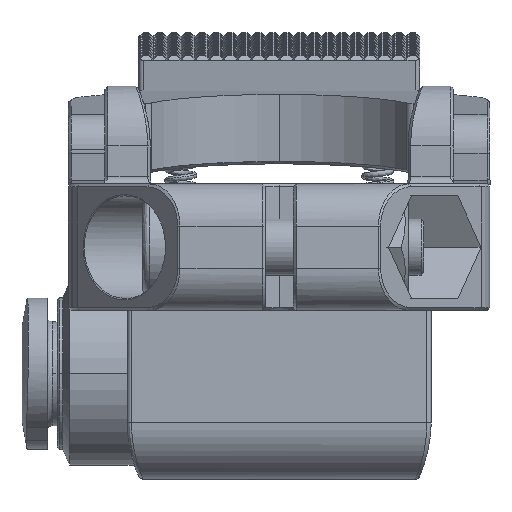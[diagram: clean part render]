
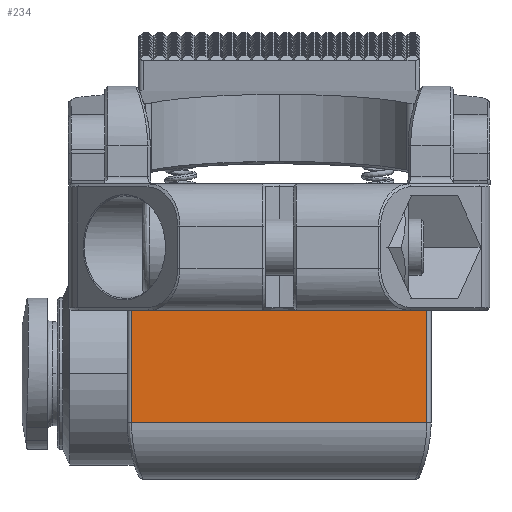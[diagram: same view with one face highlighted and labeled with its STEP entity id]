
A CAD part, left-side view. The second image highlights one B-rep face of the part: STEP entity #234.
In plain terms, the highlighted planar face has unit normal (-1, 0, 0).
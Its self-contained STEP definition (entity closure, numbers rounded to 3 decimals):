
#234 = ADVANCED_FACE ( 'NONE', ( #61321 ), #41630, .F. ) ;
#2772 = CARTESIAN_POINT ( 'NONE',  ( 12.5, -12., -9. ) ) ;
#3682 = EDGE_LOOP ( 'NONE', ( #71424, #13045, #40835, #74938 ) ) ;
#8984 = DIRECTION ( 'NONE',  ( 0., -1., 0. ) ) ;
#12083 = DIRECTION ( 'NONE',  ( 0., 0., 1. ) ) ;
#13045 = ORIENTED_EDGE ( 'NONE', *, *, #50017, .F. ) ;
#14332 = DIRECTION ( 'NONE',  ( 0., 1., 0. ) ) ;
#15787 = VECTOR ( 'NONE', #17545, 1000. ) ;
#17545 = DIRECTION ( 'NONE',  ( 0., 0., -1. ) ) ;
#21440 = LINE ( 'NONE', #2772, #54790 ) ;
#23661 = VECTOR ( 'NONE', #12083, 1000. ) ;
#28330 = CARTESIAN_POINT ( 'NONE',  ( 12.5, -10.507, -17. ) ) ;
#29934 = CARTESIAN_POINT ( 'NONE',  ( 12.5, -10.507, -21. ) ) ;
#30177 = EDGE_CURVE ( 'NONE', #53444, #38929, #61616, .T. ) ;
#33395 = LINE ( 'NONE', #29934, #15787 ) ;
#34055 = EDGE_CURVE ( 'NONE', #35301, #49506, #33395, .T. ) ;
#35301 = VERTEX_POINT ( 'NONE', #39430 ) ;
#36137 = CARTESIAN_POINT ( 'NONE',  ( 12.5, 10.507, -21. ) ) ;
#38914 = CARTESIAN_POINT ( 'NONE',  ( 12.5, 10.983, -17. ) ) ;
#38929 = VERTEX_POINT ( 'NONE', #71483 ) ;
#39430 = CARTESIAN_POINT ( 'NONE',  ( 12.5, -10.507, -9. ) ) ;
#40835 = ORIENTED_EDGE ( 'NONE', *, *, #34055, .F. ) ;
#40852 = DIRECTION ( 'NONE',  ( 1., 0., 0. ) ) ;
#40952 = EDGE_CURVE ( 'NONE', #38929, #35301, #21440, .T. ) ;
#41630 = PLANE ( 'NONE',  #69974 ) ;
#49506 = VERTEX_POINT ( 'NONE', #28330 ) ;
#50017 = EDGE_CURVE ( 'NONE', #49506, #53444, #51495, .T. ) ;
#51495 = LINE ( 'NONE', #38914, #73647 ) ;
#53444 = VERTEX_POINT ( 'NONE', #65988 ) ;
#54790 = VECTOR ( 'NONE', #8984, 1000. ) ;
#58128 = DIRECTION ( 'NONE',  ( 0., 1., 0. ) ) ;
#61321 = FACE_OUTER_BOUND ( 'NONE', #3682, .T. ) ;
#61616 = LINE ( 'NONE', #36137, #23661 ) ;
#65988 = CARTESIAN_POINT ( 'NONE',  ( 12.5, 10.507, -17. ) ) ;
#69974 = AXIS2_PLACEMENT_3D ( 'NONE', #76460, #40852, #58128 ) ;
#71424 = ORIENTED_EDGE ( 'NONE', *, *, #30177, .F. ) ;
#71483 = CARTESIAN_POINT ( 'NONE',  ( 12.5, 10.507, -9. ) ) ;
#73647 = VECTOR ( 'NONE', #14332, 1000. ) ;
#74938 = ORIENTED_EDGE ( 'NONE', *, *, #40952, .F. ) ;
#76460 = CARTESIAN_POINT ( 'NONE',  ( 12.5, 10.983, -21. ) ) ;
